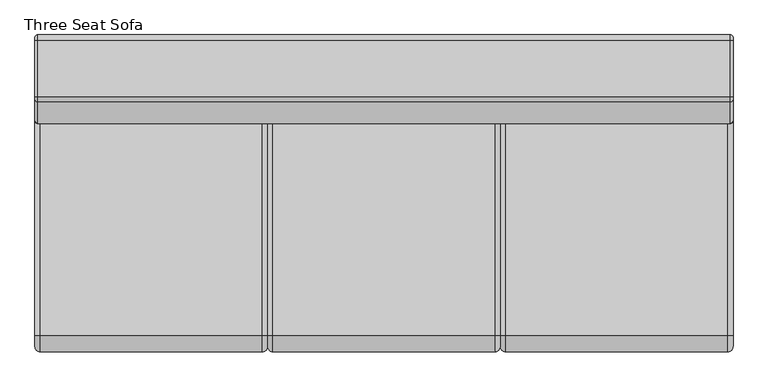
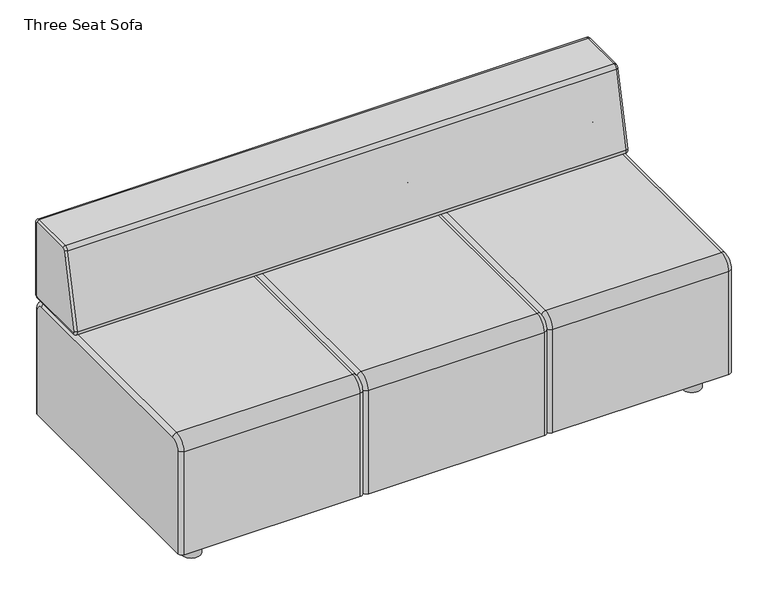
"""IFC4 building model written with IfcOpenShell, lengths in millimetres: furniture geometry, Steelcase Coalesse - Await - Seating - Modular : Three Seat Sofa."""

import ifcopenshell
import ifcopenshell.guid

model = None  # the IFC model being written
_history = None  # IfcOwnerHistory: only IFC2X3 demands one
_inside = {}  # id of a spatial element -> (the spatial element, [elements in it])
_under = {}  # id of a project, library or spatial element -> (it, [spatial elements below it])
_declared = {}  # id of a project -> (the project, [libraries it declares])
_typed = {}  # id of a type object -> (the type object, [elements of that type])
_made_of = {}  # id of a material, layer set ... -> (it, [elements and type objects made of it])


def new_model(schema):
    """Start an empty IFC model of exactly this schema.

    Asked for "IFC4X3", IfcOpenShell would pick the latest addendum, in which some entities
    have other attributes; the version numbers below select the first issue.
    IFC2X3 requires an IfcOwnerHistory on every rooted entity: one is made here for all.
    """
    global model, _history
    if schema == "IFC4X3":
        model = ifcopenshell.file(schema_version=(4, 3, 0, 0))
    else:
        model = ifcopenshell.file(schema=schema)
    _inside.clear()
    _under.clear()
    _declared.clear()
    _typed.clear()
    _made_of.clear()
    _history = None
    if model.schema == "IFC2X3":
        org = make("IfcOrganization", Name="unknown")
        user = make(
            "IfcPersonAndOrganization",
            ThePerson=make("IfcPerson", FamilyName="unknown"),
            TheOrganization=org,
        )
        app = make(
            "IfcApplication",
            ApplicationDeveloper=org,
            Version="unknown",
            ApplicationFullName="unknown",
            ApplicationIdentifier="unknown",
        )
        _history = make(
            "IfcOwnerHistory",
            OwningUser=user,
            OwningApplication=app,
            ChangeAction="ADDED",
            CreationDate=0,
        )
    return model


def make(cls, **values):
    """One entity of the class cls with the attributes given. An attribute that is None is left unset."""
    return model.create_entity(
        cls, **{name: value for name, value in values.items() if value is not None}
    )


def rooted(cls, **values):
    """An entity with a GlobalId (a new one), such as an element, a storey or a relation."""
    return make(cls, GlobalId=ifcopenshell.guid.new(), OwnerHistory=_history, **values)


def si_unit(unit_type, name, prefix=None):
    """IfcSIUnit, for example si_unit("LENGTHUNIT", "METRE", prefix="MILLI")."""
    return make("IfcSIUnit", UnitType=unit_type, Prefix=prefix, Name=name)


def assignment(units):
    """IfcUnitAssignment: the units of a project."""
    return None if units is None else make("IfcUnitAssignment", Units=units)


def point(xyz):
    """IfcCartesianPoint."""
    return None if xyz is None else make("IfcCartesianPoint", Coordinates=xyz)


def direction(xyz):
    """IfcDirection."""
    return None if xyz is None else make("IfcDirection", DirectionRatios=xyz)


def frame(location, z_axis=None, x_axis=None):
    """IfcAxis2Placement3D, a coordinate frame: its origin and axes. An axis left out is left unset."""
    return make(
        "IfcAxis2Placement3D",
        Location=point(location),
        Axis=direction(z_axis),
        RefDirection=direction(x_axis),
    )


def frame_2d(location, x_axis=None):
    """IfcAxis2Placement2D, a coordinate frame in the plane: its origin and x axis."""
    return make(
        "IfcAxis2Placement2D", Location=point(location), RefDirection=direction(x_axis)
    )


def origin():
    """The frame at (0, 0, 0) with its axes left unset."""
    return frame((0.0, 0.0, 0.0))


def origin_with_axes():
    """The frame at (0, 0, 0) with the z axis (0, 0, 1) and the x axis (1, 0, 0) written out."""
    return frame((0.0, 0.0, 0.0), z_axis=(0.0, 0.0, 1.0), x_axis=(1.0, 0.0, 0.0))


def place(relative_to, where):
    """IfcLocalPlacement: puts the frame where relative to a parent placement (None: the world)."""
    return make(
        "IfcLocalPlacement", PlacementRelTo=relative_to, RelativePlacement=where
    )


def context(
    kind, dimensions, precision=None, world=None, true_north=None, identifier=None
):
    """IfcGeometricRepresentationContext, for example the 3D "Model" context."""
    return make(
        "IfcGeometricRepresentationContext",
        ContextIdentifier=identifier,
        ContextType=kind,
        CoordinateSpaceDimension=dimensions,
        Precision=precision,
        WorldCoordinateSystem=world,
        TrueNorth=true_north,
    )


def project(units=None, contexts=None):
    """IfcProject with its units and contexts."""
    return rooted(
        "IfcProject",
        Name="project",
        RepresentationContexts=contexts,
        UnitsInContext=assignment(units),
    )


def spatial(cls, under=None, at=None, **own):
    """A site, building, storey or space (cls), placed at a placement, below another one or the project."""
    s = rooted(cls, ObjectPlacement=at, **own)
    if under is not None:
        _under.setdefault(under.id(), (under, []))[1].append(s)
    return s


def circle_curve(where, radius):
    """IfcCircle in the frame where."""
    return make("IfcCircle", Position=where, Radius=radius)


def ellipse_curve(where, semi_axis1, semi_axis2):
    """IfcEllipse in the frame where."""
    return make(
        "IfcEllipse", Position=where, SemiAxis1=semi_axis1, SemiAxis2=semi_axis2
    )


def trimmed(basis, trim1, trim2, sense, master):
    """IfcTrimmedCurve: the piece of a basis curve between two trims."""
    return make(
        "IfcTrimmedCurve",
        BasisCurve=basis,
        Trim1=trim1,
        Trim2=trim2,
        SenseAgreement=sense,
        MasterRepresentation=master,
    )


def segment(curve, same_sense, transition):
    """IfcCompositeCurveSegment."""
    return make(
        "IfcCompositeCurveSegment",
        Transition=transition,
        SameSense=same_sense,
        ParentCurve=curve,
    )


def composite_curve(segments, self_intersect=None):
    """IfcCompositeCurve: segments joined end to end."""
    return make("IfcCompositeCurve", Segments=segments, SelfIntersect=self_intersect)


def outline(outer, holes=None, kind="AREA"):
    """IfcArbitraryClosedProfileDef: a profile drawn as a closed curve; with holes, ...WithVoids."""
    if holes is None:
        return make("IfcArbitraryClosedProfileDef", ProfileType=kind, OuterCurve=outer)
    return make(
        "IfcArbitraryProfileDefWithVoids",
        ProfileType=kind,
        OuterCurve=outer,
        InnerCurves=holes,
    )


def extrude(swept, where, along, depth):
    """IfcExtrudedAreaSolid: the profile swept, set in the frame where, extruded along a direction by depth."""
    return make(
        "IfcExtrudedAreaSolid",
        SweptArea=swept,
        Position=where,
        ExtrudedDirection=direction(along),
        Depth=depth,
    )


def shape(context_of_items, identifier, shape_type, items):
    """IfcShapeRepresentation: the items that make up one representation, for example the "Body"."""
    return make(
        "IfcShapeRepresentation",
        ContextOfItems=context_of_items,
        RepresentationIdentifier=identifier,
        RepresentationType=shape_type,
        Items=items,
    )


def source(mapping_origin, context_of_items, identifier, shape_type, items):
    """IfcRepresentationMap: a shape defined once, which mapped items show again and again."""
    return make(
        "IfcRepresentationMap",
        MappingOrigin=mapping_origin,
        MappedRepresentation=shape(context_of_items, identifier, shape_type, items),
    )


def transform(
    local_origin,
    x_axis=None,
    y_axis=None,
    z_axis=None,
    scale=None,
    scale2=None,
    scale3=None,
    uniform=True,
):
    """IfcCartesianTransformationOperator3D, or its non-uniform kind. x_axis, y_axis, z_axis: its Axis1, 2, 3."""
    if uniform:
        return make(
            "IfcCartesianTransformationOperator3D",
            Axis1=direction(x_axis),
            Axis2=direction(y_axis),
            LocalOrigin=point(local_origin),
            Scale=scale,
            Axis3=direction(z_axis),
        )
    return make(
        "IfcCartesianTransformationOperator3DnonUniform",
        Axis1=direction(x_axis),
        Axis2=direction(y_axis),
        LocalOrigin=point(local_origin),
        Scale=scale,
        Axis3=direction(z_axis),
        Scale2=scale2,
        Scale3=scale3,
    )


def mapped(mapping_source, mapping_target):
    """IfcMappedItem: shows the shape of a source again, moved by a transform."""
    return make(
        "IfcMappedItem", MappingSource=mapping_source, MappingTarget=mapping_target
    )


def made_of(thing, what):
    """Note that an element or type object is made of a material, layer set ...; save() writes the relation."""
    if what is not None:
        _made_of.setdefault(what.id(), (what, []))[1].append(thing)
    return thing


def element(
    cls,
    number,
    at=None,
    inside=None,
    cuts=None,
    type_object=None,
    material=None,
    context=None,
    identifier="Body",
    shape_type=None,
    held_by="IfcProductDefinitionShape",
    body=None,
    shapes=None,
    **own,
):
    """One element of the class cls, such as IfcWall. Its Tag is "e" and its number.

    at: its placement. inside: the storey or other place that contains it. cuts: it is an
    opening in that element (IfcRelVoidsElement). A single representation is given by context,
    identifier, shape_type and body (its items); several are given by shapes. held_by: the class
    of the entity that holds the representations. save() writes the other relations.
    """
    e = rooted(cls, Tag="e%d" % number, ObjectPlacement=at, **own)
    if body is not None:
        shapes = [shape(context, identifier, shape_type, body)]
    if shapes is not None:
        e.Representation = make(held_by, Representations=shapes)
    if inside is not None:
        _inside.setdefault(inside.id(), (inside, []))[1].append(e)
    if cuts is not None:
        rooted(
            "IfcRelVoidsElement", RelatingBuildingElement=cuts, RelatedOpeningElement=e
        )
    if type_object is not None:
        _typed.setdefault(type_object.id(), (type_object, []))[1].append(e)
    return made_of(e, material)


def aggregate(whole, parts):
    """IfcRelAggregates: a whole, such as a stair, and the parts it consists of."""
    return rooted("IfcRelAggregates", RelatingObject=whole, RelatedObjects=parts)


def save(model, path):
    """Write the relations noted so far, then the file.

    IfcRelAggregates (storeys below a building ...), IfcRelContainedInSpatialStructure (elements
    in a storey), IfcRelDefinesByType, IfcRelAssociatesMaterial and IfcRelDeclares: one each for
    every whole, place, type object, material and project.
    """
    for whole, parts in _under.values():
        aggregate(whole, parts)
    for where, things in _inside.values():
        rooted(
            "IfcRelContainedInSpatialStructure",
            RelatedElements=things,
            RelatingStructure=where,
        )
    for kind, things in _typed.values():
        rooted("IfcRelDefinesByType", RelatedObjects=things, RelatingType=kind)
    for what, things in _made_of.values():
        rooted("IfcRelAssociatesMaterial", RelatedObjects=things, RelatingMaterial=what)
    for by, libraries in _declared.values():
        rooted("IfcRelDeclares", RelatingContext=by, RelatedDefinitions=libraries)
    model.write(path)


def plane_surface(at):
    """IfcPlane: the flat surface through the origin of the frame at, square to its z axis."""
    return make("IfcPlane", Position=at)


def cylinder_surface(at, radius):
    """IfcCylindricalSurface: all points at the distance radius from the z axis of the frame at."""
    return make("IfcCylindricalSurface", Position=at, Radius=radius)


def revolved_surface(curve, axis_point, axis_direction):
    """IfcSurfaceOfRevolution: the curve turned about the line through axis_point along axis_direction."""
    return make(
        "IfcSurfaceOfRevolution",
        SweptCurve=make("IfcArbitraryOpenProfileDef", ProfileType="CURVE", Curve=curve),
        AxisPosition=make("IfcAxis1Placement", Location=point(axis_point), Axis=direction(axis_direction)),
    )


def advanced_brep(points, edges, surfaces, faces):
    """IfcAdvancedBrep: a solid bounded by faces that lie on surfaces and meet in shared edges.

    An edge is (start, end): straight between two places in points (the first is 0);
    or (start, end, curve); or (start, end, curve, False) where it runs against its curve.
    A face is (place in surfaces, loops), or (place, loops, False) where it looks against
    its surface's normal. A loop lists edges by number (the first is 1), with a minus sign
    where the edge is run from its end to its start. The first loop is the outer one.
    """
    corners = [point(p) for p in points]
    vertices = [make("IfcVertexPoint", VertexGeometry=c) for c in corners]
    made = []
    for start, end, *more in edges:
        made.append(
            make(
                "IfcEdgeCurve",
                EdgeStart=vertices[start],
                EdgeEnd=vertices[end],
                EdgeGeometry=more[0] if more else make("IfcPolyline", Points=[corners[start], corners[end]]),
                SameSense=more[1] if len(more) > 1 else True,
            )
        )
    hull = []
    for where, loops, *sense in faces:
        bounds = []
        for j, loop in enumerate(loops):
            ring = [make("IfcOrientedEdge", EdgeElement=made[abs(k) - 1], Orientation=k > 0) for k in loop]
            bounds.append(
                make(
                    "IfcFaceOuterBound" if j == 0 else "IfcFaceBound",
                    Bound=make("IfcEdgeLoop", EdgeList=ring),
                    Orientation=True,
                )
            )
        hull.append(make("IfcAdvancedFace", Bounds=bounds, FaceSurface=surfaces[where], SameSense=sense[0] if sense else True))
    return make("IfcAdvancedBrep", Outer=make("IfcClosedShell", CfsFaces=hull))


def three_seat_sofa_db898eeb(model_context):
    return source(origin(), model_context, "Body", "SolidModel", [
        advanced_brep(
        [(453.6820901, 393.3623127, 63.5), (466.2654193, 405.9456418, 63.5), (999.6886345, 405.9456418, 63.5), (1012.4820962, 393.1521801, 63.5), (1012.4820962, -343.2608965, 63.5), (999.6886345, -356.0543582, 63.5), (466.2654193, -356.0543582, 63.5), (453.6820901, -343.471029, 63.5), (453.6820901, -343.471029, 393.6999879), (453.6820901, -317.9543582, 419.2166587), (453.6820901, 370.1950719, 419.2166587), (453.6820901, 393.3623127, 396.049418), (1012.4820962, 393.1521801, 396.049418), (1012.4820962, 370.1950719, 419.0065262), (1012.4820962, -317.9543582, 419.0065262), (1012.4820962, -343.2608965, 393.6999879), (999.6886345, -356.0543582, 393.6999879), (466.2654193, -356.0543582, 393.6999879), (999.6886345, -317.9543582, 431.7999879), (466.2654193, -317.9543582, 431.7999879), (999.6886345, 370.1950719, 431.7999879), (466.2654193, 370.1950719, 431.7999879), (999.6886345, 405.9456418, 396.049418), (466.2654193, 405.9456418, 396.049418)],
        [
            (0, 1, circle_curve(frame((466.2654193, 393.3623127, 63.5), z_axis=(0.0, 0.0, -1.0), x_axis=(0.0, 1.0, 0.0)), 12.5833292)),
            (1, 2),
            (2, 3, circle_curve(frame((999.6886345, 393.1521801, 63.5), z_axis=(0.0, 0.0, -1.0), x_axis=(0.0, 1.0, 0.0)), 12.7934617)),
            (3, 4),
            (4, 5, circle_curve(frame((999.6886345, -343.2608965, 63.5), z_axis=(0.0, 0.0, -1.0), x_axis=(0.0, -1.0, 0.0)), 12.7934617)),
            (5, 6),
            (6, 7, circle_curve(frame((466.2654193, -343.471029, 63.5), z_axis=(0.0, 0.0, -1.0), x_axis=(0.0, -1.0, 0.0)), 12.5833292)),
            (7, 0),
            (7, 8),
            (8, 9, circle_curve(frame((453.6820901, -317.9543582, 393.6999879), z_axis=(-1.0, 0.0, 0.0), x_axis=(0.0, -1.0, 0.0)), 25.5166708)),
            (9, 10),
            (10, 11, circle_curve(frame((453.6820901, 370.1950719, 396.049418), z_axis=(-1.0, 0.0, 0.0), x_axis=(0.0, 0.0, 1.0)), 23.1672407)),
            (11, 0),
            (3, 12),
            (12, 13, circle_curve(frame((1012.4820962, 370.1950719, 396.049418), z_axis=(1.0, 0.0, 0.0), x_axis=(0.0, 0.0, 1.0)), 22.9571082)),
            (13, 14),
            (14, 15, circle_curve(frame((1012.4820962, -317.9543582, 393.6999879), z_axis=(1.0, 0.0, 0.0), x_axis=(0.0, -1.0, 0.0)), 25.3065383)),
            (15, 4),
            (15, 16, circle_curve(frame((999.6886345, -343.2608965, 393.6999879), z_axis=(0.0, 0.0, -1.0), x_axis=(0.0, -1.0, 0.0)), 12.7934617)),
            (16, 5),
            (16, 17),
            (17, 6),
            (17, 8, circle_curve(frame((466.2654193, -343.471029, 393.6999879), z_axis=(0.0, 0.0, -1.0), x_axis=(0.0, -1.0, 0.0)), 12.5833292)),
            (14, 18, circle_curve(frame((999.6886345, -317.9543582, 419.0065262), z_axis=(0.0, -1.0, 0.0), x_axis=(0.0, 0.0, 1.0)), 12.7934617)),
            (18, 16, circle_curve(frame((999.6886345, -317.9543582, 393.6999879), z_axis=(1.0, 0.0, 0.0), x_axis=(0.0, -1.0, 0.0)), 38.1)),
            (18, 19),
            (19, 17, circle_curve(frame((466.2654193, -317.9543582, 393.6999879), z_axis=(1.0, 0.0, 0.0), x_axis=(0.0, -1.0, 0.0)), 38.1)),
            (19, 9, circle_curve(frame((466.2654193, -317.9543582, 419.2166587), z_axis=(0.0, -1.0, 0.0), x_axis=(0.0, 0.0, 1.0)), 12.5833292)),
            (13, 20, circle_curve(frame((999.6886345, 370.1950719, 419.0065262), z_axis=(0.0, -1.0, 0.0), x_axis=(0.0, 0.0, 1.0)), 12.7934617)),
            (20, 18),
            (20, 21),
            (21, 19),
            (21, 10, circle_curve(frame((466.2654193, 370.1950719, 419.2166587), z_axis=(0.0, -1.0, 0.0), x_axis=(0.0, 0.0, 1.0)), 12.5833292)),
            (12, 22, circle_curve(frame((999.6886345, 393.1521801, 396.049418), z_axis=(0.0, 0.0, 1.0), x_axis=(0.0, 1.0, 0.0)), 12.7934617)),
            (22, 20, circle_curve(frame((999.6886345, 370.1950719, 396.049418), z_axis=(1.0, 0.0, 0.0), x_axis=(0.0, 0.0, 1.0)), 35.7505699)),
            (22, 23),
            (23, 21, circle_curve(frame((466.2654193, 370.1950719, 396.049418), z_axis=(1.0, 0.0, 0.0), x_axis=(0.0, 0.0, 1.0)), 35.7505699)),
            (23, 11, circle_curve(frame((466.2654193, 393.3623127, 396.049418), z_axis=(0.0, 0.0, 1.0), x_axis=(0.0, 1.0, 0.0)), 12.5833292)),
            (2, 22),
            (1, 23),
        ],
        [
            plane_surface(frame((1117.6000121, -330.6543582, 63.5), z_axis=(0.0, 0.0, -1.0), x_axis=(1.0, 0.0, 0.0))),
            plane_surface(frame((453.6820901, -343.471029, 63.5), z_axis=(-1.0, 0.0, 0.0), x_axis=(0.0, 0.0, 1.0))),
            plane_surface(frame((1012.4820962, -330.6543582, 63.5), z_axis=(1.0, 0.0, 0.0), x_axis=(0.0, 0.0, 1.0))),
            cylinder_surface(frame((999.6886345, -343.2608965, 63.5), z_axis=(0.0, 0.0, -1.0), x_axis=(0.0, -1.0, 0.0)), 12.7934617),
            plane_surface(frame((999.6886345, -356.0543582, 63.5), z_axis=(0.0, -1.0, 0.0), x_axis=(0.0, 0.0, 1.0))),
            cylinder_surface(frame((466.2654193, -343.471029, 63.5), z_axis=(0.0, 0.0, -1.0), x_axis=(0.0, -1.0, 0.0)), 12.5833292),
            revolved_surface(trimmed(ellipse_curve(frame((999.6886345, -343.2608965, 393.6999879), z_axis=(0.0, 0.0, -1.0), x_axis=(0.0, -1.0, 0.0)), 12.7934617, 12.7934617), [point((1012.4820962, -343.2608965, 393.6999879))], [point((999.6886345, -356.0543582, 393.6999879))], True, "CARTESIAN"), (1117.6000121, -317.9543582, 393.6999879), (-1.0, 0.0, 0.0)),
            cylinder_surface(frame((1117.6000121, -317.9543582, 393.6999879), z_axis=(-1.0, 0.0, 0.0), x_axis=(0.0, -1.0, 0.0)), 38.1),
            revolved_surface(trimmed(ellipse_curve(frame((466.2654193, -343.471029, 393.6999879), z_axis=(0.0, 0.0, -1.0), x_axis=(0.0, -1.0, 0.0)), 12.5833292, 12.5833292), [point((466.2654193, -356.0543582, 393.6999879))], [point((453.6820901, -343.471029, 393.6999879))], True, "CARTESIAN"), (1117.6000121, -317.9543582, 393.6999879), (-1.0, 0.0, 0.0)),
            cylinder_surface(frame((999.6886345, -317.9543582, 419.0065262), z_axis=(0.0, -1.0, 0.0), x_axis=(0.0, 0.0, 1.0)), 12.7934617),
            plane_surface(frame((999.6886345, -317.9543582, 431.7999879), z_axis=(0.0, 0.0, 1.0), x_axis=(0.0, 1.0, 0.0))),
            cylinder_surface(frame((466.2654193, -317.9543582, 419.2166587), z_axis=(0.0, -1.0, 0.0), x_axis=(0.0, 0.0, 1.0)), 12.5833292),
            revolved_surface(trimmed(ellipse_curve(frame((999.6886345, 370.1950719, 419.0065262), z_axis=(0.0, -1.0, 0.0), x_axis=(0.0, 0.0, 1.0)), 12.7934617, 12.7934617), [point((1012.4820962, 370.1950719, 419.0065262))], [point((999.6886345, 370.1950719, 431.7999879))], True, "CARTESIAN"), (1117.6000121, 370.1950719, 396.049418), (-1.0, 0.0, 0.0)),
            cylinder_surface(frame((1117.6000121, 370.1950719, 396.049418), z_axis=(-1.0, 0.0, 0.0), x_axis=(0.0, 0.0, 1.0)), 35.7505699),
            revolved_surface(trimmed(ellipse_curve(frame((466.2654193, 370.1950719, 419.2166587), z_axis=(0.0, -1.0, 0.0), x_axis=(0.0, 0.0, 1.0)), 12.5833292, 12.5833292), [point((466.2654193, 370.1950719, 431.7999879))], [point((453.6820901, 370.1950719, 419.2166587))], True, "CARTESIAN"), (1117.6000121, 370.1950719, 396.049418), (-1.0, 0.0, 0.0)),
            cylinder_surface(frame((999.6886345, 393.1521801, 396.049418), z_axis=(0.0, 0.0, 1.0), x_axis=(0.0, 1.0, 0.0)), 12.7934617),
            plane_surface(frame((999.6886345, 405.9456418, 396.049418), z_axis=(0.0, 1.0, 0.0), x_axis=(0.0, 0.0, -1.0))),
            cylinder_surface(frame((466.2654193, 393.3623127, 396.049418), z_axis=(0.0, 0.0, 1.0), x_axis=(0.0, 1.0, 0.0)), 12.5833292),
        ],
        [
            (0, [[1, 2, 3, 4, 5, 6, 7, 8]]),
            (1, [[-8, 9, 10, 11, 12, 13]]),
            (2, [[-4, 14, 15, 16, 17, 18]]),
            (3, [[-5, -18, 19, 20]]),
            (4, [[-6, -20, 21, 22]]),
            (5, [[-7, -22, 23, -9]]),
            (6, [[-17, 24, 25, -19]]),
            (7, [[-21, -25, 26, 27]]),
            (8, [[-10, -23, -27, 28]]),
            (9, [[-16, 29, 30, -24]]),
            (10, [[-26, -30, 31, 32]]),
            (11, [[-11, -28, -32, 33]]),
            (12, [[-15, 34, 35, -29]]),
            (13, [[-31, -35, 36, 37]]),
            (14, [[-12, -33, -37, 38]]),
            (15, [[-14, -3, 39, -34]]),
            (16, [[-36, -39, -2, 40]]),
            (17, [[-13, -38, -40, -1]]),
        ],
    ),
        advanced_brep(
        [(-105.1179159, 393.3623127, 63.5), (-92.5345867, 405.9456418, 63.5), (440.8886284, 405.9456418, 63.5), (453.6820901, 393.1521801, 63.5), (453.6820901, -343.2608965, 63.5), (440.8886284, -356.0543582, 63.5), (-92.5345867, -356.0543582, 63.5), (-105.1179159, -343.471029, 63.5), (-105.1179159, -343.471029, 393.6999879), (-105.1179159, -317.9543582, 419.2166587), (-105.1179159, 370.1950719, 419.2166587), (-105.1179159, 393.3623127, 396.049418), (453.6820901, 393.1521801, 396.049418), (453.6820901, 370.1950719, 419.0065262), (453.6820901, -317.9543582, 419.0065262), (453.6820901, -343.2608965, 393.6999879), (440.8886284, -356.0543582, 393.6999879), (-92.5345867, -356.0543582, 393.6999879), (440.8886284, -317.9543582, 431.7999879), (-92.5345867, -317.9543582, 431.7999879), (440.8886284, 370.1950719, 431.7999879), (-92.5345867, 370.1950719, 431.7999879), (440.8886284, 405.9456418, 396.049418), (-92.5345867, 405.9456418, 396.049418)],
        [
            (0, 1, circle_curve(frame((-92.5345867, 393.3623127, 63.5), z_axis=(0.0, 0.0, -1.0), x_axis=(0.0, 1.0, 0.0)), 12.5833292)),
            (1, 2),
            (2, 3, circle_curve(frame((440.8886284, 393.1521801, 63.5), z_axis=(0.0, 0.0, -1.0), x_axis=(0.0, 1.0, 0.0)), 12.7934617)),
            (3, 4),
            (4, 5, circle_curve(frame((440.8886284, -343.2608965, 63.5), z_axis=(0.0, 0.0, -1.0), x_axis=(0.0, -1.0, 0.0)), 12.7934617)),
            (5, 6),
            (6, 7, circle_curve(frame((-92.5345867, -343.471029, 63.5), z_axis=(0.0, 0.0, -1.0), x_axis=(0.0, -1.0, 0.0)), 12.5833292)),
            (7, 0),
            (7, 8),
            (8, 9, circle_curve(frame((-105.1179159, -317.9543582, 393.6999879), z_axis=(-1.0, 0.0, 0.0), x_axis=(0.0, -1.0, 0.0)), 25.5166708)),
            (9, 10),
            (10, 11, circle_curve(frame((-105.1179159, 370.1950719, 396.049418), z_axis=(-1.0, 0.0, 0.0), x_axis=(0.0, 0.0, 1.0)), 23.1672407)),
            (11, 0),
            (3, 12),
            (12, 13, circle_curve(frame((453.6820901, 370.1950719, 396.049418), z_axis=(1.0, 0.0, 0.0), x_axis=(0.0, 0.0, 1.0)), 22.9571082)),
            (13, 14),
            (14, 15, circle_curve(frame((453.6820901, -317.9543582, 393.6999879), z_axis=(1.0, 0.0, 0.0), x_axis=(0.0, -1.0, 0.0)), 25.3065383)),
            (15, 4),
            (15, 16, circle_curve(frame((440.8886284, -343.2608965, 393.6999879), z_axis=(0.0, 0.0, -1.0), x_axis=(0.0, -1.0, 0.0)), 12.7934617)),
            (16, 5),
            (16, 17),
            (17, 6),
            (17, 8, circle_curve(frame((-92.5345867, -343.471029, 393.6999879), z_axis=(0.0, 0.0, -1.0), x_axis=(0.0, -1.0, 0.0)), 12.5833292)),
            (14, 18, circle_curve(frame((440.8886284, -317.9543582, 419.0065262), z_axis=(0.0, -1.0, 0.0), x_axis=(0.0, 0.0, 1.0)), 12.7934617)),
            (18, 16, circle_curve(frame((440.8886284, -317.9543582, 393.6999879), z_axis=(1.0, 0.0, 0.0), x_axis=(0.0, -1.0, 0.0)), 38.1)),
            (18, 19),
            (19, 17, circle_curve(frame((-92.5345867, -317.9543582, 393.6999879), z_axis=(1.0, 0.0, 0.0), x_axis=(0.0, -1.0, 0.0)), 38.1)),
            (19, 9, circle_curve(frame((-92.5345867, -317.9543582, 419.2166587), z_axis=(0.0, -1.0, 0.0), x_axis=(0.0, 0.0, 1.0)), 12.5833292)),
            (13, 20, circle_curve(frame((440.8886284, 370.1950719, 419.0065262), z_axis=(0.0, -1.0, 0.0), x_axis=(0.0, 0.0, 1.0)), 12.7934617)),
            (20, 18),
            (20, 21),
            (21, 19),
            (21, 10, circle_curve(frame((-92.5345867, 370.1950719, 419.2166587), z_axis=(0.0, -1.0, 0.0), x_axis=(0.0, 0.0, 1.0)), 12.5833292)),
            (12, 22, circle_curve(frame((440.8886284, 393.1521801, 396.049418), z_axis=(0.0, 0.0, 1.0), x_axis=(0.0, 1.0, 0.0)), 12.7934617)),
            (22, 20, circle_curve(frame((440.8886284, 370.1950719, 396.049418), z_axis=(1.0, 0.0, 0.0), x_axis=(0.0, 0.0, 1.0)), 35.7505699)),
            (22, 23),
            (23, 21, circle_curve(frame((-92.5345867, 370.1950719, 396.049418), z_axis=(1.0, 0.0, 0.0), x_axis=(0.0, 0.0, 1.0)), 35.7505699)),
            (23, 11, circle_curve(frame((-92.5345867, 393.3623127, 396.049418), z_axis=(0.0, 0.0, 1.0), x_axis=(0.0, 1.0, 0.0)), 12.5833292)),
            (2, 22),
            (1, 23),
        ],
        [
            plane_surface(frame((558.8000061, -330.6543582, 63.5), z_axis=(0.0, 0.0, -1.0), x_axis=(1.0, 0.0, 0.0))),
            plane_surface(frame((-105.1179159, -343.471029, 63.5), z_axis=(-1.0, 0.0, 0.0), x_axis=(0.0, 0.0, 1.0))),
            plane_surface(frame((453.6820901, -330.6543582, 63.5), z_axis=(1.0, 0.0, 0.0), x_axis=(0.0, 0.0, 1.0))),
            cylinder_surface(frame((440.8886284, -343.2608965, 63.5), z_axis=(0.0, 0.0, -1.0), x_axis=(0.0, -1.0, 0.0)), 12.7934617),
            plane_surface(frame((440.8886284, -356.0543582, 63.5), z_axis=(0.0, -1.0, 0.0), x_axis=(0.0, 0.0, 1.0))),
            cylinder_surface(frame((-92.5345867, -343.471029, 63.5), z_axis=(0.0, 0.0, -1.0), x_axis=(0.0, -1.0, 0.0)), 12.5833292),
            revolved_surface(trimmed(ellipse_curve(frame((440.8886284, -343.2608965, 393.6999879), z_axis=(0.0, 0.0, -1.0), x_axis=(0.0, -1.0, 0.0)), 12.7934617, 12.7934617), [point((453.6820901, -343.2608965, 393.6999879))], [point((440.8886284, -356.0543582, 393.6999879))], True, "CARTESIAN"), (558.8000061, -317.9543582, 393.6999879), (-1.0, 0.0, 0.0)),
            cylinder_surface(frame((558.8000061, -317.9543582, 393.6999879), z_axis=(-1.0, 0.0, 0.0), x_axis=(0.0, -1.0, 0.0)), 38.1),
            revolved_surface(trimmed(ellipse_curve(frame((-92.5345867, -343.471029, 393.6999879), z_axis=(0.0, 0.0, -1.0), x_axis=(0.0, -1.0, 0.0)), 12.5833292, 12.5833292), [point((-92.5345867, -356.0543582, 393.6999879))], [point((-105.1179159, -343.471029, 393.6999879))], True, "CARTESIAN"), (558.8000061, -317.9543582, 393.6999879), (-1.0, 0.0, 0.0)),
            cylinder_surface(frame((440.8886284, -317.9543582, 419.0065262), z_axis=(0.0, -1.0, 0.0), x_axis=(0.0, 0.0, 1.0)), 12.7934617),
            plane_surface(frame((440.8886284, -317.9543582, 431.7999879), z_axis=(0.0, 0.0, 1.0), x_axis=(0.0, 1.0, 0.0))),
            cylinder_surface(frame((-92.5345867, -317.9543582, 419.2166587), z_axis=(0.0, -1.0, 0.0), x_axis=(0.0, 0.0, 1.0)), 12.5833292),
            revolved_surface(trimmed(ellipse_curve(frame((440.8886284, 370.1950719, 419.0065262), z_axis=(0.0, -1.0, 0.0), x_axis=(0.0, 0.0, 1.0)), 12.7934617, 12.7934617), [point((453.6820901, 370.1950719, 419.0065262))], [point((440.8886284, 370.1950719, 431.7999879))], True, "CARTESIAN"), (558.8000061, 370.1950719, 396.049418), (-1.0, 0.0, 0.0)),
            cylinder_surface(frame((558.8000061, 370.1950719, 396.049418), z_axis=(-1.0, 0.0, 0.0), x_axis=(0.0, 0.0, 1.0)), 35.7505699),
            revolved_surface(trimmed(ellipse_curve(frame((-92.5345867, 370.1950719, 419.2166587), z_axis=(0.0, -1.0, 0.0), x_axis=(0.0, 0.0, 1.0)), 12.5833292, 12.5833292), [point((-92.5345867, 370.1950719, 431.7999879))], [point((-105.1179159, 370.1950719, 419.2166587))], True, "CARTESIAN"), (558.8000061, 370.1950719, 396.049418), (-1.0, 0.0, 0.0)),
            cylinder_surface(frame((440.8886284, 393.1521801, 396.049418), z_axis=(0.0, 0.0, 1.0), x_axis=(0.0, 1.0, 0.0)), 12.7934617),
            plane_surface(frame((440.8886284, 405.9456418, 396.049418), z_axis=(0.0, 1.0, 0.0), x_axis=(0.0, 0.0, -1.0))),
            cylinder_surface(frame((-92.5345867, 393.3623127, 396.049418), z_axis=(0.0, 0.0, 1.0), x_axis=(0.0, 1.0, 0.0)), 12.5833292),
        ],
        [
            (0, [[1, 2, 3, 4, 5, 6, 7, 8]]),
            (1, [[-8, 9, 10, 11, 12, 13]]),
            (2, [[-4, 14, 15, 16, 17, 18]]),
            (3, [[-5, -18, 19, 20]]),
            (4, [[-6, -20, 21, 22]]),
            (5, [[-7, -22, 23, -9]]),
            (6, [[-17, 24, 25, -19]]),
            (7, [[-21, -25, 26, 27]]),
            (8, [[-10, -23, -27, 28]]),
            (9, [[-16, 29, 30, -24]]),
            (10, [[-26, -30, 31, 32]]),
            (11, [[-11, -28, -32, 33]]),
            (12, [[-15, 34, 35, -29]]),
            (13, [[-31, -35, 36, 37]]),
            (14, [[-12, -33, -37, 38]]),
            (15, [[-14, -3, 39, -34]]),
            (16, [[-36, -39, -2, 40]]),
            (17, [[-13, -38, -40, -1]]),
        ],
    ),
        advanced_brep(
        [(-663.917922, 393.3623127, 63.5), (-651.3345928, 405.9456418, 63.5), (-117.9113776, 405.9456418, 63.5), (-105.1179159, 393.1521801, 63.5), (-105.1179159, -343.2608965, 63.5), (-117.9113776, -356.0543582, 63.5), (-651.3345928, -356.0543582, 63.5), (-663.917922, -343.471029, 63.5), (-663.917922, -343.471029, 393.6999879), (-663.917922, -317.9543582, 419.2166587), (-663.917922, 370.1950719, 419.2166587), (-663.917922, 393.3623127, 396.049418), (-105.1179159, 393.1521801, 396.049418), (-105.1179159, 370.1950719, 419.0065262), (-105.1179159, -317.9543582, 419.0065262), (-105.1179159, -343.2608965, 393.6999879), (-117.9113776, -356.0543582, 393.6999879), (-651.3345928, -356.0543582, 393.6999879), (-117.9113776, -317.9543582, 431.7999879), (-651.3345928, -317.9543582, 431.7999879), (-117.9113776, 370.1950719, 431.7999879), (-651.3345928, 370.1950719, 431.7999879), (-117.9113776, 405.9456418, 396.049418), (-651.3345928, 405.9456418, 396.049418)],
        [
            (0, 1, circle_curve(frame((-651.3345928, 393.3623127, 63.5), z_axis=(0.0, 0.0, -1.0), x_axis=(0.0, 1.0, 0.0)), 12.5833292)),
            (1, 2),
            (2, 3, circle_curve(frame((-117.9113776, 393.1521801, 63.5), z_axis=(0.0, 0.0, -1.0), x_axis=(0.0, 1.0, 0.0)), 12.7934617)),
            (3, 4),
            (4, 5, circle_curve(frame((-117.9113776, -343.2608965, 63.5), z_axis=(0.0, 0.0, -1.0), x_axis=(0.0, -1.0, 0.0)), 12.7934617)),
            (5, 6),
            (6, 7, circle_curve(frame((-651.3345928, -343.471029, 63.5), z_axis=(0.0, 0.0, -1.0), x_axis=(0.0, -1.0, 0.0)), 12.5833292)),
            (7, 0),
            (7, 8),
            (8, 9, circle_curve(frame((-663.917922, -317.9543582, 393.6999879), z_axis=(-1.0, 0.0, 0.0), x_axis=(0.0, -1.0, 0.0)), 25.5166708)),
            (9, 10),
            (10, 11, circle_curve(frame((-663.917922, 370.1950719, 396.049418), z_axis=(-1.0, 0.0, 0.0), x_axis=(0.0, 0.0, 1.0)), 23.1672407)),
            (11, 0),
            (3, 12),
            (12, 13, circle_curve(frame((-105.1179159, 370.1950719, 396.049418), z_axis=(1.0, 0.0, 0.0), x_axis=(0.0, 0.0, 1.0)), 22.9571082)),
            (13, 14),
            (14, 15, circle_curve(frame((-105.1179159, -317.9543582, 393.6999879), z_axis=(1.0, 0.0, 0.0), x_axis=(0.0, -1.0, 0.0)), 25.3065383)),
            (15, 4),
            (15, 16, circle_curve(frame((-117.9113776, -343.2608965, 393.6999879), z_axis=(0.0, 0.0, -1.0), x_axis=(0.0, -1.0, 0.0)), 12.7934617)),
            (16, 5),
            (16, 17),
            (17, 6),
            (17, 8, circle_curve(frame((-651.3345928, -343.471029, 393.6999879), z_axis=(0.0, 0.0, -1.0), x_axis=(0.0, -1.0, 0.0)), 12.5833292)),
            (14, 18, circle_curve(frame((-117.9113776, -317.9543582, 419.0065262), z_axis=(0.0, -1.0, 0.0), x_axis=(0.0, 0.0, 1.0)), 12.7934617)),
            (18, 16, circle_curve(frame((-117.9113776, -317.9543582, 393.6999879), z_axis=(1.0, 0.0, 0.0), x_axis=(0.0, -1.0, 0.0)), 38.1)),
            (18, 19),
            (19, 17, circle_curve(frame((-651.3345928, -317.9543582, 393.6999879), z_axis=(1.0, 0.0, 0.0), x_axis=(0.0, -1.0, 0.0)), 38.1)),
            (19, 9, circle_curve(frame((-651.3345928, -317.9543582, 419.2166587), z_axis=(0.0, -1.0, 0.0), x_axis=(0.0, 0.0, 1.0)), 12.5833292)),
            (13, 20, circle_curve(frame((-117.9113776, 370.1950719, 419.0065262), z_axis=(0.0, -1.0, 0.0), x_axis=(0.0, 0.0, 1.0)), 12.7934617)),
            (20, 18),
            (20, 21),
            (21, 19),
            (21, 10, circle_curve(frame((-651.3345928, 370.1950719, 419.2166587), z_axis=(0.0, -1.0, 0.0), x_axis=(0.0, 0.0, 1.0)), 12.5833292)),
            (12, 22, circle_curve(frame((-117.9113776, 393.1521801, 396.049418), z_axis=(0.0, 0.0, 1.0), x_axis=(0.0, 1.0, 0.0)), 12.7934617)),
            (22, 20, circle_curve(frame((-117.9113776, 370.1950719, 396.049418), z_axis=(1.0, 0.0, 0.0), x_axis=(0.0, 0.0, 1.0)), 35.7505699)),
            (22, 23),
            (23, 21, circle_curve(frame((-651.3345928, 370.1950719, 396.049418), z_axis=(1.0, 0.0, 0.0), x_axis=(0.0, 0.0, 1.0)), 35.7505699)),
            (23, 11, circle_curve(frame((-651.3345928, 393.3623127, 396.049418), z_axis=(0.0, 0.0, 1.0), x_axis=(0.0, 1.0, 0.0)), 12.5833292)),
            (2, 22),
            (1, 23),
        ],
        [
            plane_surface(frame((0.0, -330.6543582, 63.5), z_axis=(0.0, 0.0, -1.0), x_axis=(1.0, 0.0, 0.0))),
            plane_surface(frame((-663.917922, -343.471029, 63.5), z_axis=(-1.0, 0.0, 0.0), x_axis=(0.0, 0.0, 1.0))),
            plane_surface(frame((-105.1179159, -330.6543582, 63.5), z_axis=(1.0, 0.0, 0.0), x_axis=(0.0, 0.0, 1.0))),
            cylinder_surface(frame((-117.9113776, -343.2608965, 63.5), z_axis=(0.0, 0.0, -1.0), x_axis=(0.0, -1.0, 0.0)), 12.7934617),
            plane_surface(frame((-117.9113776, -356.0543582, 63.5), z_axis=(0.0, -1.0, 0.0), x_axis=(0.0, 0.0, 1.0))),
            cylinder_surface(frame((-651.3345928, -343.471029, 63.5), z_axis=(0.0, 0.0, -1.0), x_axis=(0.0, -1.0, 0.0)), 12.5833292),
            revolved_surface(trimmed(ellipse_curve(frame((-117.9113776, -343.2608965, 393.6999879), z_axis=(0.0, 0.0, -1.0), x_axis=(0.0, -1.0, 0.0)), 12.7934617, 12.7934617), [point((-105.1179159, -343.2608965, 393.6999879))], [point((-117.9113776, -356.0543582, 393.6999879))], True, "CARTESIAN"), (0.0, -317.9543582, 393.6999879), (-1.0, 0.0, 0.0)),
            cylinder_surface(frame((0.0, -317.9543582, 393.6999879), z_axis=(-1.0, 0.0, 0.0), x_axis=(0.0, -1.0, 0.0)), 38.1),
            revolved_surface(trimmed(ellipse_curve(frame((-651.3345928, -343.471029, 393.6999879), z_axis=(0.0, 0.0, -1.0), x_axis=(0.0, -1.0, 0.0)), 12.5833292, 12.5833292), [point((-651.3345928, -356.0543582, 393.6999879))], [point((-663.917922, -343.471029, 393.6999879))], True, "CARTESIAN"), (0.0, -317.9543582, 393.6999879), (-1.0, 0.0, 0.0)),
            cylinder_surface(frame((-117.9113776, -317.9543582, 419.0065262), z_axis=(0.0, -1.0, 0.0), x_axis=(0.0, 0.0, 1.0)), 12.7934617),
            plane_surface(frame((-117.9113776, -317.9543582, 431.7999879), z_axis=(0.0, 0.0, 1.0), x_axis=(0.0, 1.0, 0.0))),
            cylinder_surface(frame((-651.3345928, -317.9543582, 419.2166587), z_axis=(0.0, -1.0, 0.0), x_axis=(0.0, 0.0, 1.0)), 12.5833292),
            revolved_surface(trimmed(ellipse_curve(frame((-117.9113776, 370.1950719, 419.0065262), z_axis=(0.0, -1.0, 0.0), x_axis=(0.0, 0.0, 1.0)), 12.7934617, 12.7934617), [point((-105.1179159, 370.1950719, 419.0065262))], [point((-117.9113776, 370.1950719, 431.7999879))], True, "CARTESIAN"), (0.0, 370.1950719, 396.049418), (-1.0, 0.0, 0.0)),
            cylinder_surface(frame((0.0, 370.1950719, 396.049418), z_axis=(-1.0, 0.0, 0.0), x_axis=(0.0, 0.0, 1.0)), 35.7505699),
            revolved_surface(trimmed(ellipse_curve(frame((-651.3345928, 370.1950719, 419.2166587), z_axis=(0.0, -1.0, 0.0), x_axis=(0.0, 0.0, 1.0)), 12.5833292, 12.5833292), [point((-651.3345928, 370.1950719, 431.7999879))], [point((-663.917922, 370.1950719, 419.2166587))], True, "CARTESIAN"), (0.0, 370.1950719, 396.049418), (-1.0, 0.0, 0.0)),
            cylinder_surface(frame((-117.9113776, 393.1521801, 396.049418), z_axis=(0.0, 0.0, 1.0), x_axis=(0.0, 1.0, 0.0)), 12.7934617),
            plane_surface(frame((-117.9113776, 405.9456418, 396.049418), z_axis=(0.0, 1.0, 0.0), x_axis=(0.0, 0.0, -1.0))),
            cylinder_surface(frame((-651.3345928, 393.3623127, 396.049418), z_axis=(0.0, 0.0, 1.0), x_axis=(0.0, 1.0, 0.0)), 12.5833292),
        ],
        [
            (0, [[1, 2, 3, 4, 5, 6, 7, 8]]),
            (1, [[-8, 9, 10, 11, 12, 13]]),
            (2, [[-4, 14, 15, 16, 17, 18]]),
            (3, [[-5, -18, 19, 20]]),
            (4, [[-6, -20, 21, 22]]),
            (5, [[-7, -22, 23, -9]]),
            (6, [[-17, 24, 25, -19]]),
            (7, [[-21, -25, 26, 27]]),
            (8, [[-10, -23, -27, 28]]),
            (9, [[-16, 29, 30, -24]]),
            (10, [[-26, -30, 31, 32]]),
            (11, [[-11, -28, -32, 33]]),
            (12, [[-15, 34, 35, -29]]),
            (13, [[-31, -35, 36, 37]]),
            (14, [[-12, -33, -37, 38]]),
            (15, [[-14, -3, 39, -34]]),
            (16, [[-36, -39, -2, 40]]),
            (17, [[-13, -38, -40, -1]]),
        ],
    ),
        advanced_brep(
        [(1006.132078, 405.9456176, 673.1), (1006.132078, 393.2456418, 685.7999758), (1012.482078, 393.2456418, 679.4499758), (1012.482078, 399.5956176, 673.1), (-657.5679462, 405.9456176, 673.1), (-657.5679462, 393.2456418, 685.7999758), (-663.917922, 399.5956418, 673.1), (-663.917922, 393.2456418, 679.45), (1012.482078, 399.5956176, 444.5), (1006.132078, 405.9456176, 444.5), (-657.5679462, 405.9456176, 444.5), (-663.917922, 399.5956418, 444.5), (1012.482078, 393.2456418, 438.1500242), (1006.132078, 393.2456418, 431.8000242), (-657.5679462, 393.2456418, 431.8000242), (-663.917922, 393.2456418, 438.15), (1012.482078, 205.5396507, 438.1500242), (1006.132078, 205.5396507, 431.8000242), (-657.5679462, 205.5396507, 431.8000242), (-663.917922, 205.5396507, 438.15), (1012.482078, 199.3396428, 445.8718942), (1006.132078, 193.1396112, 447.2437937), (-657.5679462, 193.1396112, 447.2437937), (-663.917922, 199.3396191, 445.8718995), (1012.482078, 249.9226461, 674.4718942), (1006.132078, 243.7226145, 675.8437937), (-657.5679462, 243.7226145, 675.8437937), (-663.917922, 249.9226225, 674.4718995), (1012.482078, 256.1226541, 679.4499758), (1006.132078, 256.1226541, 685.7999758), (-657.5679462, 256.1226541, 685.7999758), (-663.917922, 256.1226541, 679.45)],
        [
            (0, 1, circle_curve(frame((1006.132078, 393.2456418, 673.1), z_axis=(1.0, 0.0, 0.0), x_axis=(0.0, 0.0, 1.0)), 12.6999758)),
            (1, 2, circle_curve(frame((1006.132078, 393.2456418, 679.4499758), z_axis=(0.0, 1.0, 0.0), x_axis=(0.0, 0.0, 1.0)), 6.35)),
            (2, 3, circle_curve(frame((1012.482078, 393.2456418, 673.1), z_axis=(-1.0, 0.0, 0.0), x_axis=(0.0, 0.0, 1.0)), 6.3499758)),
            (3, 0, circle_curve(frame((1006.132078, 399.5956176, 673.1), z_axis=(0.0, 0.0, 1.0), x_axis=(0.0, 1.0, 0.0)), 6.35)),
            (0, 4),
            (4, 5, circle_curve(frame((-657.5679462, 393.2456418, 673.1), z_axis=(1.0, 0.0, 0.0), x_axis=(0.0, 0.0, 1.0)), 12.6999758)),
            (5, 1),
            (4, 6, circle_curve(frame((-657.5679462, 399.5956418, 673.1), z_axis=(0.0, 0.0, 1.0), x_axis=(0.0, 1.0, 0.0)), 6.3499758)),
            (6, 7, circle_curve(frame((-663.917922, 393.2456418, 673.1), z_axis=(1.0, 0.0, 0.0), x_axis=(0.0, 0.0, 1.0)), 6.35)),
            (7, 5, circle_curve(frame((-657.5679462, 393.2456418, 679.45), z_axis=(0.0, 1.0, 0.0), x_axis=(0.0, 0.0, 1.0)), 6.3499758)),
            (3, 8),
            (8, 9, circle_curve(frame((1006.132078, 399.5956176, 444.5), z_axis=(0.0, 0.0, 1.0), x_axis=(0.0, 1.0, 0.0)), 6.35)),
            (9, 0),
            (9, 10),
            (10, 4),
            (10, 11, circle_curve(frame((-657.5679462, 399.5956418, 444.5), z_axis=(0.0, 0.0, 1.0), x_axis=(0.0, 1.0, 0.0)), 6.3499758)),
            (11, 6),
            (8, 12, circle_curve(frame((1012.482078, 393.2456418, 444.5), z_axis=(-1.0, 0.0, 0.0), x_axis=(0.0, 1.0, 0.0)), 6.3499758)),
            (12, 13, circle_curve(frame((1006.132078, 393.2456418, 438.1500242), z_axis=(0.0, 1.0, 0.0), x_axis=(0.0, 0.0, -1.0)), 6.35)),
            (13, 9, circle_curve(frame((1006.132078, 393.2456418, 444.5), z_axis=(1.0, 0.0, 0.0), x_axis=(0.0, 1.0, 0.0)), 12.6999758)),
            (13, 14),
            (14, 10, circle_curve(frame((-657.5679462, 393.2456418, 444.5), z_axis=(1.0, 0.0, 0.0), x_axis=(0.0, 1.0, 0.0)), 12.6999758)),
            (14, 15, circle_curve(frame((-657.5679462, 393.2456418, 438.15), z_axis=(0.0, 1.0, 0.0), x_axis=(0.0, 0.0, -1.0)), 6.3499758)),
            (15, 11, circle_curve(frame((-663.917922, 393.2456418, 444.5), z_axis=(1.0, 0.0, 0.0), x_axis=(0.0, 1.0, 0.0)), 6.35)),
            (12, 16),
            (16, 17, circle_curve(frame((1006.132078, 205.5396507, 438.1500242), z_axis=(0.0, 1.0, 0.0), x_axis=(0.0, 0.0, -1.0)), 6.35)),
            (17, 13),
            (17, 18),
            (18, 14),
            (18, 19, circle_curve(frame((-657.5679462, 205.5396507, 438.15), z_axis=(0.0, 1.0, 0.0), x_axis=(0.0, 0.0, -1.0)), 6.3499758)),
            (19, 15),
            (16, 20, circle_curve(frame((1012.482078, 205.5396507, 444.5), z_axis=(-1.0, 0.0, 0.0), x_axis=(0.0, 0.0, -1.0)), 6.3499758)),
            (20, 21, circle_curve(frame((1006.132078, 199.3396428, 445.8718942), z_axis=(0.0, -0.21604716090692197, -0.9763829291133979), x_axis=(0.0, -0.9763829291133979, 0.21604716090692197)), 6.35)),
            (21, 17, circle_curve(frame((1006.132078, 205.5396507, 444.5), z_axis=(1.0, 0.0, 0.0), x_axis=(0.0, 0.0, -1.0)), 12.6999758)),
            (21, 22),
            (22, 18, circle_curve(frame((-657.5679462, 205.5396507, 444.5), z_axis=(1.0, 0.0, 0.0), x_axis=(0.0, 0.0, -1.0)), 12.6999758)),
            (22, 23, circle_curve(frame((-657.5679462, 199.3396191, 445.8718995), z_axis=(0.0, -0.2160471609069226, -0.9763829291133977), x_axis=(0.0, -0.9763829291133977, 0.2160471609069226)), 6.3499758)),
            (23, 19, circle_curve(frame((-663.917922, 205.5396507, 444.5), z_axis=(1.0, 0.0, 0.0), x_axis=(0.0, 0.0, -1.0)), 6.35)),
            (20, 24),
            (24, 25, circle_curve(frame((1006.132078, 249.9226461, 674.4718942), z_axis=(0.0, -0.2160471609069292, -0.9763829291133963), x_axis=(0.0, -0.9763829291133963, 0.2160471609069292)), 6.35)),
            (25, 21),
            (25, 26),
            (26, 22),
            (26, 27, circle_curve(frame((-657.5679462, 249.9226225, 674.4718995), z_axis=(0.0, -0.2160471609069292, -0.9763829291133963), x_axis=(0.0, -0.9763829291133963, 0.2160471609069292)), 6.3499758)),
            (27, 23),
            (24, 28, circle_curve(frame((1012.482078, 256.1226541, 673.1), z_axis=(-1.0, 0.0, 0.0), x_axis=(0.0, -0.9763829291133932, 0.21604716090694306)), 6.3499758)),
            (28, 29, circle_curve(frame((1006.132078, 256.1226541, 679.4499758), z_axis=(0.0, -1.0, 0.0), x_axis=(0.0, 0.0, 1.0)), 6.35)),
            (29, 25, circle_curve(frame((1006.132078, 256.1226541, 673.1), z_axis=(1.0, 0.0, 0.0), x_axis=(0.0, -0.9763829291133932, 0.21604716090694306)), 12.6999758)),
            (29, 30),
            (30, 26, circle_curve(frame((-657.5679462, 256.1226541, 673.1), z_axis=(1.0, 0.0, 0.0), x_axis=(0.0, -0.9763829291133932, 0.21604716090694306)), 12.6999758)),
            (30, 31, circle_curve(frame((-657.5679462, 256.1226541, 679.45), z_axis=(0.0, -1.0, 0.0), x_axis=(0.0, 0.0, 1.0)), 6.3499758)),
            (31, 27, circle_curve(frame((-663.917922, 256.1226541, 673.1), z_axis=(1.0, 0.0, 0.0), x_axis=(0.0, -0.9763829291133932, 0.21604716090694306)), 6.35)),
            (31, 7),
            (2, 28),
            (1, 29),
            (5, 30),
        ],
        [
            revolved_surface(trimmed(ellipse_curve(frame((1006.132078, 393.2456418, 679.4499758), z_axis=(0.0, -1.0, 0.0), x_axis=(0.0, 0.0, 1.0)), 6.35, 6.35), [point((1012.482078, 393.2456418, 679.4499758))], [point((1006.132078, 393.2456418, 685.7999758))], True, "CARTESIAN"), (0.0, 393.2456418, 673.1), (-1.0, 0.0, 0.0)),
            cylinder_surface(frame((0.0, 393.2456418, 673.1), z_axis=(-1.0, 0.0, 0.0), x_axis=(0.0, 0.0, 1.0)), 12.6999758),
            revolved_surface(trimmed(ellipse_curve(frame((-657.5679462, 393.2456418, 679.45), z_axis=(0.0, -1.0, 0.0), x_axis=(0.0, 0.0, 1.0)), 6.3499758, 6.3499758), [point((-657.5679462, 393.2456418, 685.7999758))], [point((-663.917922, 393.2456418, 679.45))], True, "CARTESIAN"), (0.0, 393.2456418, 673.1), (-1.0, 0.0, 0.0)),
            cylinder_surface(frame((1006.132078, 399.5956176, 673.1), z_axis=(0.0, 0.0, 1.0), x_axis=(0.0, 1.0, 0.0)), 6.35),
            plane_surface(frame((1006.132078, 405.9456176, 673.1), z_axis=(0.0, 1.0, 0.0), x_axis=(0.0, 0.0, -1.0))),
            cylinder_surface(frame((-657.5679462, 399.5956418, 673.1), z_axis=(0.0, 0.0, 1.0), x_axis=(0.0, 1.0, 0.0)), 6.3499758),
            revolved_surface(trimmed(ellipse_curve(frame((1006.132078, 399.5956176, 444.5), z_axis=(0.0, 0.0, 1.0), x_axis=(0.0, 1.0, 0.0)), 6.35, 6.35), [point((1012.482078, 399.5956176, 444.5))], [point((1006.132078, 405.9456176, 444.5))], True, "CARTESIAN"), (0.0, 393.2456418, 444.5), (-1.0, 0.0, 0.0)),
            cylinder_surface(frame((0.0, 393.2456418, 444.5), z_axis=(-1.0, 0.0, 0.0), x_axis=(0.0, 1.0, 0.0)), 12.6999758),
            revolved_surface(trimmed(ellipse_curve(frame((-657.5679462, 399.5956418, 444.5), z_axis=(0.0, 0.0, 1.0), x_axis=(0.0, 1.0, 0.0)), 6.3499758, 6.3499758), [point((-657.5679462, 405.9456176, 444.5))], [point((-663.917922, 399.5956418, 444.5))], True, "CARTESIAN"), (0.0, 393.2456418, 444.5), (-1.0, 0.0, 0.0)),
            cylinder_surface(frame((1006.132078, 393.2456418, 438.1500242), z_axis=(0.0, 1.0, 0.0), x_axis=(0.0, 0.0, -1.0)), 6.35),
            plane_surface(frame((1006.132078, 393.2456418, 431.8000242), z_axis=(0.0, 0.0, -1.0), x_axis=(0.0, -1.0, 0.0))),
            cylinder_surface(frame((-657.5679462, 393.2456418, 438.15), z_axis=(0.0, 1.0, 0.0), x_axis=(0.0, 0.0, -1.0)), 6.3499758),
            revolved_surface(trimmed(ellipse_curve(frame((1006.132078, 205.5396507, 438.1500242), z_axis=(0.0, 1.0, 0.0), x_axis=(0.0, 0.0, -1.0)), 6.35, 6.35), [point((1012.482078, 205.5396507, 438.1500242))], [point((1006.132078, 205.5396507, 431.8000242))], True, "CARTESIAN"), (0.0, 205.5396507, 444.5), (-1.0, 0.0, 0.0)),
            cylinder_surface(frame((0.0, 205.5396507, 444.5), z_axis=(-1.0, 0.0, 0.0), x_axis=(0.0, 0.0, -1.0)), 12.6999758),
            revolved_surface(trimmed(ellipse_curve(frame((-657.5679462, 205.5396507, 438.15), z_axis=(0.0, 1.0, 0.0), x_axis=(0.0, 0.0, -1.0)), 6.3499758, 6.3499758), [point((-657.5679462, 205.5396507, 431.8000242))], [point((-663.917922, 205.5396507, 438.15))], True, "CARTESIAN"), (0.0, 205.5396507, 444.5), (-1.0, 0.0, 0.0)),
            cylinder_surface(frame((1006.132078, 199.3396428, 445.8718942), z_axis=(0.0, -0.2160471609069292, -0.9763829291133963), x_axis=(0.0, -0.9763829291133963, 0.2160471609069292)), 6.35),
            plane_surface(frame((1006.132078, 193.1396112, 447.2437937), z_axis=(0.0, -0.9763829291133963, 0.21604716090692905), x_axis=(0.0, 0.21604716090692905, 0.9763829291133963))),
            cylinder_surface(frame((-657.5679462, 199.3396191, 445.8718995), z_axis=(0.0, -0.2160471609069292, -0.9763829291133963), x_axis=(0.0, -0.9763829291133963, 0.2160471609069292)), 6.3499758),
            revolved_surface(trimmed(ellipse_curve(frame((1006.132078, 249.9226461, 674.4718942), z_axis=(0.0, -0.2160471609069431, -0.9763829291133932), x_axis=(0.0, -0.9763829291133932, 0.2160471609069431)), 6.35, 6.35), [point((1012.482078, 249.9226461, 674.4718942))], [point((1006.132078, 243.7226145, 675.8437937))], True, "CARTESIAN"), (0.0, 256.1226541, 673.1), (-1.0, 0.0, 0.0)),
            cylinder_surface(frame((0.0, 256.1226541, 673.1), z_axis=(-1.0, 0.0, 0.0), x_axis=(0.0, -0.9763829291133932, 0.21604716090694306)), 12.6999758),
            revolved_surface(trimmed(ellipse_curve(frame((-657.5679462, 249.9226225, 674.4718995), z_axis=(0.0, -0.2160471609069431, -0.9763829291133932), x_axis=(0.0, -0.9763829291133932, 0.2160471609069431)), 6.3499758, 6.3499758), [point((-657.5679462, 243.7226145, 675.8437937))], [point((-663.917922, 249.9226225, 674.4718995))], True, "CARTESIAN"), (0.0, 256.1226541, 673.1), (-1.0, 0.0, 0.0)),
            plane_surface(frame((-663.917922, 256.1226541, 679.45), z_axis=(-1.0, 0.0, 0.0), x_axis=(0.0, 1.0, 0.0))),
            plane_surface(frame((1012.482078, 256.1226541, 678.18), z_axis=(1.0, 0.0, 0.0), x_axis=(0.0, 1.0, 0.0))),
            cylinder_surface(frame((1006.132078, 256.1226541, 679.4499758), z_axis=(0.0, -1.0, 0.0), x_axis=(0.0, 0.0, 1.0)), 6.35),
            plane_surface(frame((1006.132078, 256.1226541, 685.7999758), z_axis=(0.0, 0.0, 1.0), x_axis=(0.0, 1.0, 0.0))),
            cylinder_surface(frame((-657.5679462, 256.1226541, 679.45), z_axis=(0.0, -1.0, 0.0), x_axis=(0.0, 0.0, 1.0)), 6.3499758),
        ],
        [
            (0, [[1, 2, 3, 4]]),
            (1, [[-1, 5, 6, 7]]),
            (2, [[-6, 8, 9, 10]]),
            (3, [[-4, 11, 12, 13]]),
            (4, [[-5, -13, 14, 15]]),
            (5, [[-8, -15, 16, 17]]),
            (6, [[-12, 18, 19, 20]]),
            (7, [[-14, -20, 21, 22]]),
            (8, [[-16, -22, 23, 24]]),
            (9, [[-19, 25, 26, 27]]),
            (10, [[-21, -27, 28, 29]]),
            (11, [[-23, -29, 30, 31]]),
            (12, [[-26, 32, 33, 34]]),
            (13, [[-28, -34, 35, 36]]),
            (14, [[-30, -36, 37, 38]]),
            (15, [[-33, 39, 40, 41]]),
            (16, [[-35, -41, 42, 43]]),
            (17, [[-37, -43, 44, 45]]),
            (18, [[-40, 46, 47, 48]]),
            (19, [[-42, -48, 49, 50]]),
            (20, [[-44, -50, 51, 52]]),
            (21, [[-9, -17, -24, -31, -38, -45, -52, 53]]),
            (22, [[-3, 54, -46, -39, -32, -25, -18, -11]]),
            (23, [[-2, 55, -47, -54]]),
            (24, [[-7, 56, -49, -55]]),
            (25, [[-10, -53, -51, -56]]),
        ],
    ),
        extrude(outline(composite_curve([segment(trimmed(circle_curve(frame_2d((-584.4783622, -276.3867521)), 27.94), [point((-612.4183622, -276.3867521))], [point((-556.5383622, -276.3867521))], False, "CARTESIAN"), True, "CONTINUOUS"), segment(trimmed(circle_curve(frame_2d((-584.4783622, -276.3867521)), 27.94), [point((-556.5383622, -276.3867521))], [point((-612.4183622, -276.3867521))], False, "CARTESIAN"), True, "CONTINUOUS")], self_intersect=False)), origin_with_axes(), (0.0, 0.0, 1.0), 63.5),
        extrude(outline(composite_curve([segment(trimmed(circle_curve(frame_2d((-584.4783622, 326.8632479)), 27.94), [point((-612.4183622, 326.8632479))], [point((-556.5383622, 326.8632479))], False, "CARTESIAN"), True, "CONTINUOUS"), segment(trimmed(circle_curve(frame_2d((-584.4783622, 326.8632479)), 27.94), [point((-556.5383622, 326.8632479))], [point((-612.4183622, 326.8632479))], False, "CARTESIAN"), True, "CONTINUOUS")], self_intersect=False)), origin_with_axes(), (0.0, 0.0, 1.0), 63.5),
        extrude(outline(composite_curve([segment(trimmed(circle_curve(frame_2d((933.1716378, -276.3867521)), 27.94), [point((905.2316378, -276.3867521))], [point((961.1116378, -276.3867521))], False, "CARTESIAN"), True, "CONTINUOUS"), segment(trimmed(circle_curve(frame_2d((933.1716378, -276.3867521)), 27.94), [point((961.1116378, -276.3867521))], [point((905.2316378, -276.3867521))], False, "CARTESIAN"), True, "CONTINUOUS")], self_intersect=False)), origin_with_axes(), (0.0, 0.0, 1.0), 63.5),
        extrude(outline(composite_curve([segment(trimmed(circle_curve(frame_2d((933.1716378, 326.8632479)), 27.94), [point((905.2316378, 326.8632479))], [point((961.1116378, 326.8632479))], False, "CARTESIAN"), True, "CONTINUOUS"), segment(trimmed(circle_curve(frame_2d((933.1716378, 326.8632479)), 27.94), [point((961.1116378, 326.8632479))], [point((905.2316378, 326.8632479))], False, "CARTESIAN"), True, "CONTINUOUS")], self_intersect=False)), origin_with_axes(), (0.0, 0.0, 1.0), 63.5),
    ])


if __name__ == "__main__":
    model = new_model("IFC4")
    model_context = context("Model", 3, world=origin())
    ifc_project = project(units=[si_unit("LENGTHUNIT", "METRE", prefix="MILLI")], contexts=[model_context])
    site = spatial("IfcSite", under=ifc_project)
    building = spatial("IfcBuilding", under=site)
    placement = place(None, origin())
    three_seat_sofa_shape = three_seat_sofa_db898eeb(model_context)
    element("IfcFurniture", 1, ObjectType="Steelcase Coalesse - Await - Seating - Modular : Three Seat Sofa", at=placement, inside=building, context=model_context, shape_type="MappedRepresentation", body=[
        mapped(three_seat_sofa_shape, transform((0.0, 0.0, 0.0), x_axis=(1.0, 0.0, 0.0), y_axis=(0.0, 1.0, 0.0), z_axis=(0.0, 0.0, 1.0))),
    ])
    save(model, "model.ifc")
